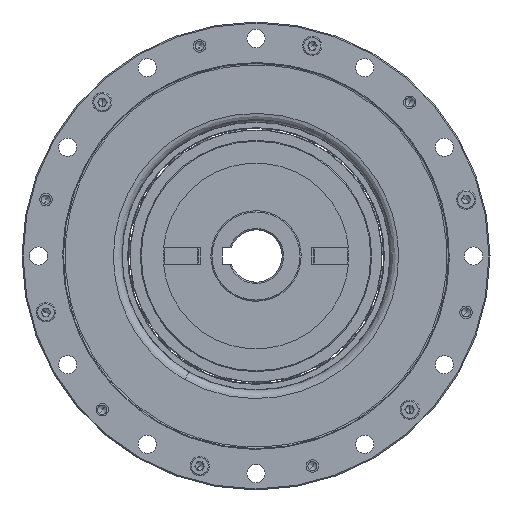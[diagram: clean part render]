
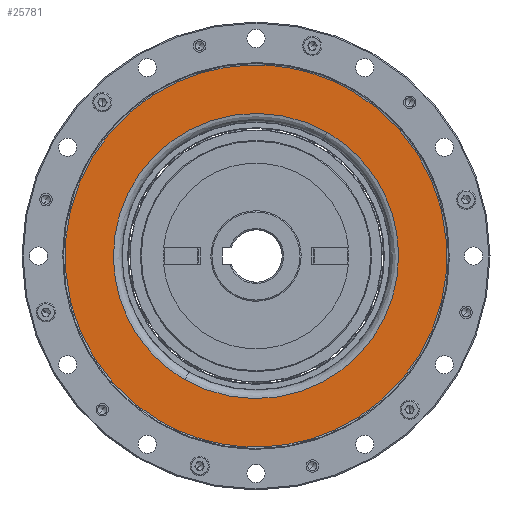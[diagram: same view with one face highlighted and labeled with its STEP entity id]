
A CAD part, left-side view. The second image highlights one B-rep face of the part: STEP entity #25781.
In plain terms, the highlighted planar face has unit normal (-1, 0, 0).
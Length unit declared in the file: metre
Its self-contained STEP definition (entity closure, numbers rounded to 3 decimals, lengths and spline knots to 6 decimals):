
#49 = PLANE ( 'NONE',  #22406 ) ;
#1119 =( BOUNDED_CURVE ( )  B_SPLINE_CURVE ( 3, ( #17618, #33105, #30590, #25037 ),
 .UNSPECIFIED., .F., .F. ) 
 B_SPLINE_CURVE_WITH_KNOTS ( ( 4, 4 ),
 ( 0., 0.5 ),
 .UNSPECIFIED. ) 
 CURVE ( )  GEOMETRIC_REPRESENTATION_ITEM ( )  RATIONAL_B_SPLINE_CURVE ( ( 1., 0.333, 0.333, 1. ) ) 
 REPRESENTATION_ITEM ( '' )  );
#1938 = CARTESIAN_POINT ( 'NONE',  ( -0.01987, -0.0259, 0.04486 ) ) ;
#2138 = CARTESIAN_POINT ( 'NONE',  ( -0.01987, -0.0347, 0.060102 ) ) ;
#2950 = DIRECTION ( 'NONE',  ( 1., 0., 0. ) ) ;
#3278 = FACE_OUTER_BOUND ( 'NONE', #31816, .T. ) ;
#3475 = VERTEX_POINT ( 'NONE', #14483 ) ;
#3863 =( BOUNDED_CURVE ( )  B_SPLINE_CURVE ( 3, ( #20001, #19854, #7371, #15122 ),
 .UNSPECIFIED., .F., .T. ) 
 B_SPLINE_CURVE_WITH_KNOTS ( ( 4, 4 ),
 ( 0., 0.5 ),
 .UNSPECIFIED. ) 
 CURVE ( )  GEOMETRIC_REPRESENTATION_ITEM ( )  RATIONAL_B_SPLINE_CURVE ( ( 1., 0.333, 0.333, 1. ) ) 
 REPRESENTATION_ITEM ( '' )  );
#4866 = CARTESIAN_POINT ( 'NONE',  ( -0.01987, 0.085504, 0.129502 ) ) ;
#7371 = CARTESIAN_POINT ( 'NONE',  ( -0.01987, -0.085504, -0.129502 ) ) ;
#7553 = VERTEX_POINT ( 'NONE', #2138 ) ;
#7839 = DIRECTION ( 'NONE',  ( 0., 0.5, -0.866 ) ) ;
#9427 = CARTESIAN_POINT ( 'NONE',  ( -0.01987, 0.0259, -0.04486 ) ) ;
#9937 = CARTESIAN_POINT ( 'NONE',  ( -0.01987, 0.154904, 0.009298 ) ) ;
#10725 = VERTEX_POINT ( 'NONE', #1938 ) ;
#11792 = CARTESIAN_POINT ( 'NONE',  ( -0.01987, -0.06382, -0.09666 ) ) ;
#12627 = EDGE_LOOP ( 'NONE', ( #26537, #29768 ) ) ;
#13055 = CARTESIAN_POINT ( 'NONE',  ( -0.01987, 0.060102, 0.0347 ) ) ;
#13146 =( BOUNDED_CURVE ( )  B_SPLINE_CURVE ( 3, ( #9427, #11792, #25101, #14494 ),
 .UNSPECIFIED., .F., .F. ) 
 B_SPLINE_CURVE_WITH_KNOTS ( ( 4, 4 ),
 ( 0.5, 1. ),
 .UNSPECIFIED. ) 
 CURVE ( )  GEOMETRIC_REPRESENTATION_ITEM ( )  RATIONAL_B_SPLINE_CURVE ( ( 1., 0.333, 0.333, 1. ) ) 
 REPRESENTATION_ITEM ( '' )  );
#14483 = CARTESIAN_POINT ( 'NONE',  ( -0.01987, 0.0347, -0.060102 ) ) ;
#14494 = CARTESIAN_POINT ( 'NONE',  ( -0.01987, -0.0259, 0.04486 ) ) ;
#14852 = CARTESIAN_POINT ( 'NONE',  ( -0.01987, -0.0347, 0.060102 ) ) ;
#15122 = CARTESIAN_POINT ( 'NONE',  ( -0.01987, 0.0347, -0.060102 ) ) ;
#16060 = VERTEX_POINT ( 'NONE', #26679 ) ;
#16241 = EDGE_CURVE ( 'NONE', #3475, #7553, #30559, .T. ) ;
#17618 = CARTESIAN_POINT ( 'NONE',  ( -0.01987, -0.0259, 0.04486 ) ) ;
#18133 = FACE_BOUND ( 'NONE', #12627, .T. ) ;
#19854 = CARTESIAN_POINT ( 'NONE',  ( -0.01987, -0.154904, -0.009298 ) ) ;
#20001 = CARTESIAN_POINT ( 'NONE',  ( -0.01987, -0.0347, 0.060102 ) ) ;
#20010 = EDGE_CURVE ( 'NONE', #16060, #10725, #13146, .T. ) ;
#21881 = ORIENTED_EDGE ( 'NONE', *, *, #26484, .F. ) ;
#22406 = AXIS2_PLACEMENT_3D ( 'NONE', #13055, #2950, #7839 ) ;
#25037 = CARTESIAN_POINT ( 'NONE',  ( -0.01987, 0.0259, -0.04486 ) ) ;
#25101 = CARTESIAN_POINT ( 'NONE',  ( -0.01987, -0.11562, -0.00694 ) ) ;
#25781 = ADVANCED_FACE ( 'NONE', ( #3278, #18133 ), #49, .F. ) ;
#26484 = EDGE_CURVE ( 'NONE', #7553, #3475, #3863, .T. ) ;
#26537 = ORIENTED_EDGE ( 'NONE', *, *, #32428, .F. ) ;
#26679 = CARTESIAN_POINT ( 'NONE',  ( -0.01987, 0.0259, -0.04486 ) ) ;
#29768 = ORIENTED_EDGE ( 'NONE', *, *, #20010, .F. ) ;
#30559 =( BOUNDED_CURVE ( )  B_SPLINE_CURVE ( 3, ( #33022, #9937, #4866, #14852 ),
 .UNSPECIFIED., .F., .F. ) 
 B_SPLINE_CURVE_WITH_KNOTS ( ( 4, 4 ),
 ( 0.5, 1. ),
 .UNSPECIFIED. ) 
 CURVE ( )  GEOMETRIC_REPRESENTATION_ITEM ( )  RATIONAL_B_SPLINE_CURVE ( ( 1., 0.333, 0.333, 1. ) ) 
 REPRESENTATION_ITEM ( '' )  );
#30590 = CARTESIAN_POINT ( 'NONE',  ( -0.01987, 0.11562, 0.00694 ) ) ;
#31712 = ORIENTED_EDGE ( 'NONE', *, *, #16241, .F. ) ;
#31816 = EDGE_LOOP ( 'NONE', ( #21881, #31712 ) ) ;
#32428 = EDGE_CURVE ( 'NONE', #10725, #16060, #1119, .T. ) ;
#33022 = CARTESIAN_POINT ( 'NONE',  ( -0.01987, 0.0347, -0.060102 ) ) ;
#33105 = CARTESIAN_POINT ( 'NONE',  ( -0.01987, 0.06382, 0.09666 ) ) ;
